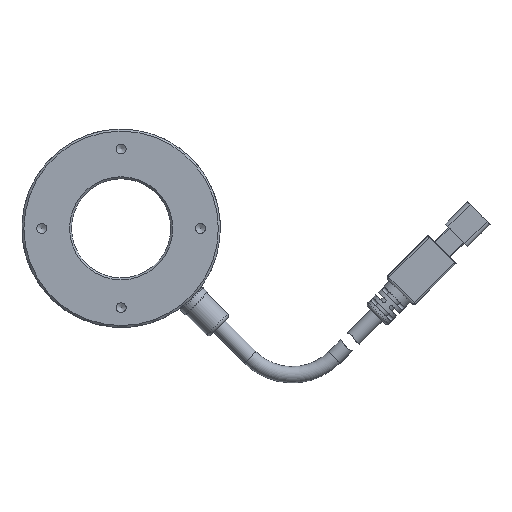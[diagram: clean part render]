
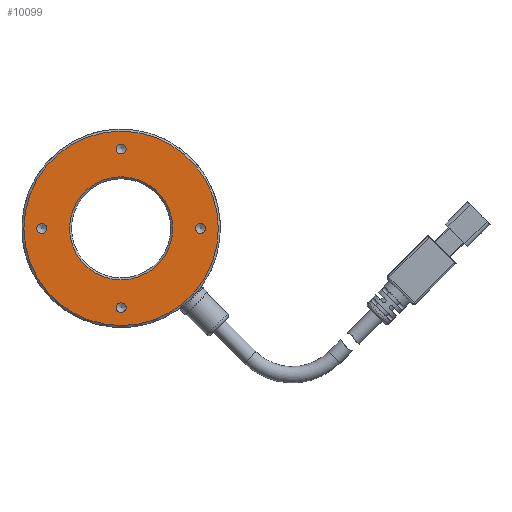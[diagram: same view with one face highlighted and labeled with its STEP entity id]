
A CAD part, front view. The second image highlights one B-rep face of the part: STEP entity #10099.
In plain terms, the highlighted planar face has unit normal (0, -1, 0).
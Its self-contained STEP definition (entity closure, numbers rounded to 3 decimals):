
#237 = AXIS2_PLACEMENT_3D ( 'NONE', #709, #14247, #1832 ) ;
#329 = DIRECTION ( 'NONE',  ( 0., -1., 0. ) ) ;
#709 = CARTESIAN_POINT ( 'NONE',  ( 0., 0., 0. ) ) ;
#986 = EDGE_CURVE ( 'NONE', #12464, #12464, #5636, .T. ) ;
#1136 = ORIENTED_EDGE ( 'NONE', *, *, #10968, .T. ) ;
#1463 = EDGE_CURVE ( 'NONE', #11026, #11026, #7573, .T. ) ;
#1832 = DIRECTION ( 'NONE',  ( 0., 0., 1. ) ) ;
#1859 = CARTESIAN_POINT ( 'NONE',  ( 0., 0., -25. ) ) ;
#1929 = EDGE_CURVE ( 'NONE', #10682, #10682, #8662, .T. ) ;
#2420 = CARTESIAN_POINT ( 'NONE',  ( 0., 0., -20. ) ) ;
#2581 = CARTESIAN_POINT ( 'NONE',  ( 0., 0., 18.75 ) ) ;
#2947 = PLANE ( 'NONE',  #3109 ) ;
#2980 = ORIENTED_EDGE ( 'NONE', *, *, #5526, .F. ) ;
#3006 = DIRECTION ( 'NONE',  ( 0., 1., 0. ) ) ;
#3109 = AXIS2_PLACEMENT_3D ( 'NONE', #1859, #3006, #10920 ) ;
#3532 = DIRECTION ( 'NONE',  ( 0., -1., 0. ) ) ;
#3564 = DIRECTION ( 'NONE',  ( 0., 0., -1. ) ) ;
#3742 = DIRECTION ( 'NONE',  ( 0., 0., 1. ) ) ;
#3994 = FACE_BOUND ( 'NONE', #8769, .T. ) ;
#4442 = EDGE_LOOP ( 'NONE', ( #13876 ) ) ;
#4641 = CARTESIAN_POINT ( 'NONE',  ( 0., 0., 24.5 ) ) ;
#4844 = CARTESIAN_POINT ( 'NONE',  ( 0., 0., 0. ) ) ;
#4918 = DIRECTION ( 'NONE',  ( 0., 0., -1. ) ) ;
#5526 = EDGE_CURVE ( 'NONE', #9428, #9428, #6406, .T. ) ;
#5636 = CIRCLE ( 'NONE', #5914, 1.25 ) ;
#5830 = CARTESIAN_POINT ( 'NONE',  ( -20., 0., 0. ) ) ;
#5914 = AXIS2_PLACEMENT_3D ( 'NONE', #5830, #3532, #11471 ) ;
#6111 = CIRCLE ( 'NONE', #9350, 1.25 ) ;
#6134 = CARTESIAN_POINT ( 'NONE',  ( 0., 0., 13. ) ) ;
#6304 = AXIS2_PLACEMENT_3D ( 'NONE', #2420, #8142, #3564 ) ;
#6406 = CIRCLE ( 'NONE', #6974, 1.25 ) ;
#6896 = ORIENTED_EDGE ( 'NONE', *, *, #1929, .T. ) ;
#6974 = AXIS2_PLACEMENT_3D ( 'NONE', #13010, #10648, #14041 ) ;
#7179 = ORIENTED_EDGE ( 'NONE', *, *, #1463, .F. ) ;
#7416 = CARTESIAN_POINT ( 'NONE',  ( 20., 0., -1.25 ) ) ;
#7573 = CIRCLE ( 'NONE', #6304, 1.25 ) ;
#8142 = DIRECTION ( 'NONE',  ( 0., -1., 0. ) ) ;
#8158 = CARTESIAN_POINT ( 'NONE',  ( 0., 0., -21.25 ) ) ;
#8265 = FACE_BOUND ( 'NONE', #4442, .T. ) ;
#8662 = CIRCLE ( 'NONE', #12913, 24.5 ) ;
#8769 = EDGE_LOOP ( 'NONE', ( #1136 ) ) ;
#8839 = ORIENTED_EDGE ( 'NONE', *, *, #986, .F. ) ;
#9310 = FACE_BOUND ( 'NONE', #11938, .T. ) ;
#9350 = AXIS2_PLACEMENT_3D ( 'NONE', #11901, #9414, #4918 ) ;
#9414 = DIRECTION ( 'NONE',  ( 0., -1., 0. ) ) ;
#9428 = VERTEX_POINT ( 'NONE', #2581 ) ;
#9616 = VERTEX_POINT ( 'NONE', #6134 ) ;
#10099 = ADVANCED_FACE ( 'NONE', ( #8265, #14079, #13023, #9310, #3994, #12671 ), #2947, .F. ) ;
#10418 = CARTESIAN_POINT ( 'NONE',  ( -20., 0., -1.25 ) ) ;
#10648 = DIRECTION ( 'NONE',  ( 0., -1., 0. ) ) ;
#10682 = VERTEX_POINT ( 'NONE', #4641 ) ;
#10920 = DIRECTION ( 'NONE',  ( 0., 0., 1. ) ) ;
#10968 = EDGE_CURVE ( 'NONE', #9616, #9616, #11783, .T. ) ;
#11026 = VERTEX_POINT ( 'NONE', #8158 ) ;
#11471 = DIRECTION ( 'NONE',  ( 0., 0., -1. ) ) ;
#11783 = CIRCLE ( 'NONE', #237, 13. ) ;
#11901 = CARTESIAN_POINT ( 'NONE',  ( 20., 0., 0. ) ) ;
#11938 = EDGE_LOOP ( 'NONE', ( #7179 ) ) ;
#12022 = EDGE_LOOP ( 'NONE', ( #6896 ) ) ;
#12170 = EDGE_CURVE ( 'NONE', #13296, #13296, #6111, .T. ) ;
#12464 = VERTEX_POINT ( 'NONE', #10418 ) ;
#12671 = FACE_OUTER_BOUND ( 'NONE', #12022, .T. ) ;
#12913 = AXIS2_PLACEMENT_3D ( 'NONE', #4844, #329, #3742 ) ;
#13010 = CARTESIAN_POINT ( 'NONE',  ( 0., 0., 20. ) ) ;
#13023 = FACE_BOUND ( 'NONE', #13173, .T. ) ;
#13173 = EDGE_LOOP ( 'NONE', ( #2980 ) ) ;
#13296 = VERTEX_POINT ( 'NONE', #7416 ) ;
#13876 = ORIENTED_EDGE ( 'NONE', *, *, #12170, .F. ) ;
#13895 = EDGE_LOOP ( 'NONE', ( #8839 ) ) ;
#14041 = DIRECTION ( 'NONE',  ( 0., 0., -1. ) ) ;
#14079 = FACE_BOUND ( 'NONE', #13895, .T. ) ;
#14247 = DIRECTION ( 'NONE',  ( 0., 1., 0. ) ) ;
